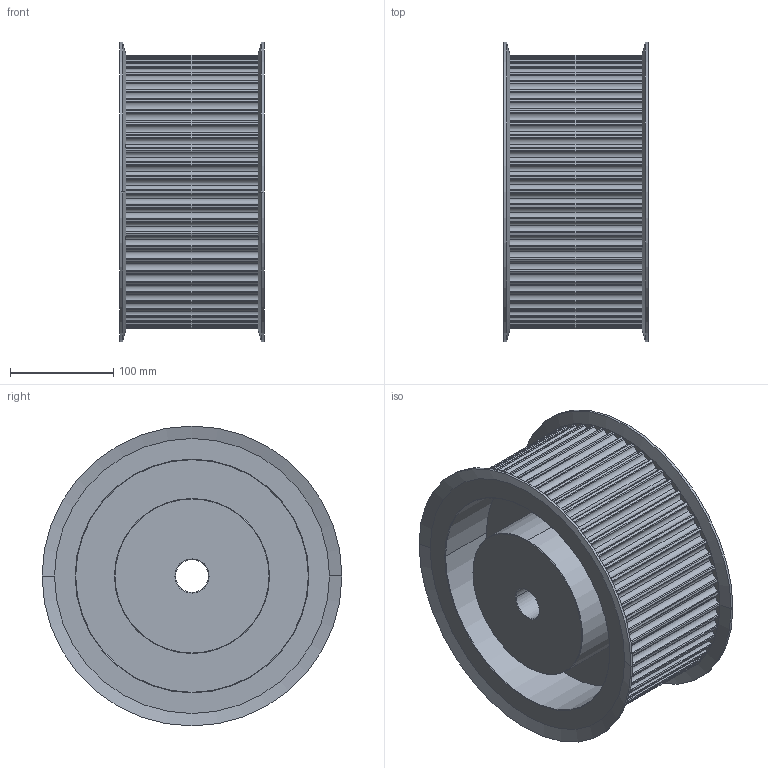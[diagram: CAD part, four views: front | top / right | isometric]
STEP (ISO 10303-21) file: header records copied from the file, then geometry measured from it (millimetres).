
FILE_DESCRIPTION(('STEP AP203'),'1');
FILE_NAME('60_-_14_m_115.stp','2022-04-28T08:30:19',('TraceParts'),('TraceParts S.A.'),'Spatial InterOp 3D',' ',' ');
FILE_SCHEMA(('CONFIG_CONTROL_DESIGN'));
Length unit declared in the file: millimetre
Products named in the file (1): 1
Bounding box: 139.43 x 290 x 290 mm (x, y, z)
Volume: 4488943.1 mm3; surface area: 449408.2 mm2
Topology: 1 solids, 1 shells, 342 faces, 988 edges, 654 vertices
Faces by surface type: cylinder 314, cone 20, plane 8
Entity records: 11682 total; most frequent: DIRECTION 2328, CARTESIAN_POINT 1985, ORIENTED_EDGE 1976, AXIS2_PLACEMENT_3D 997, EDGE_CURVE 988, VERTEX_POINT 654, CIRCLE 654, EDGE_LOOP 350
